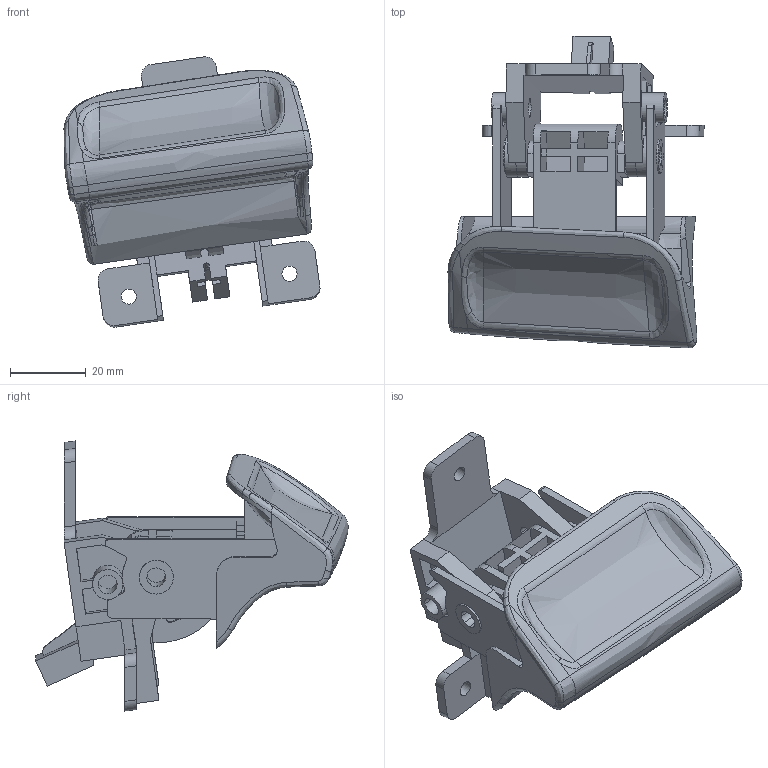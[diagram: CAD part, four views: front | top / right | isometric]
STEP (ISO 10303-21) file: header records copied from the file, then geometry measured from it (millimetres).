
FILE_DESCRIPTION(('CATIA V5 STEP Exchange','CAx-IF Rec.Pracs.--- Model Styling and Organization---1.4--- 2014-01-23'),'2;1');
FILE_NAME('C:\Users\luhaitao\Desktop\塑料件平台项目\塑料件样件清单\02.stp','2025-04-28T00:58:05+00:00',('none'),('none'),'CATIA Version 5-6 Release 2017','CATIA V5 STEP AP214','none');
FILE_SCHEMA(('AUTOMOTIVE_DESIGN { 1 0 10303 214 1 1 1 1 }'));
Length unit declared in the file: millimetre
Products named in the file (1): 02
Bounding box: 67.85 x 82.68 x 71.58 mm (x, y, z)
Volume: 37249.3 mm3; surface area: 34179.4 mm2
Topology: 3 solids, 3 shells, 488 faces, 1453 edges, 977 vertices
Faces by surface type: plane 229, bspline 158, cylinder 97, torus 4
Entity records: 24010 total; most frequent: CARTESIAN_POINT 13349, ORIENTED_EDGE 2906, EDGE_CURVE 1453, DIRECTION 1163, VERTEX_POINT 977, VECTOR 575, LINE 575, B_SPLINE_CURVE_WITH_KNOTS 566
